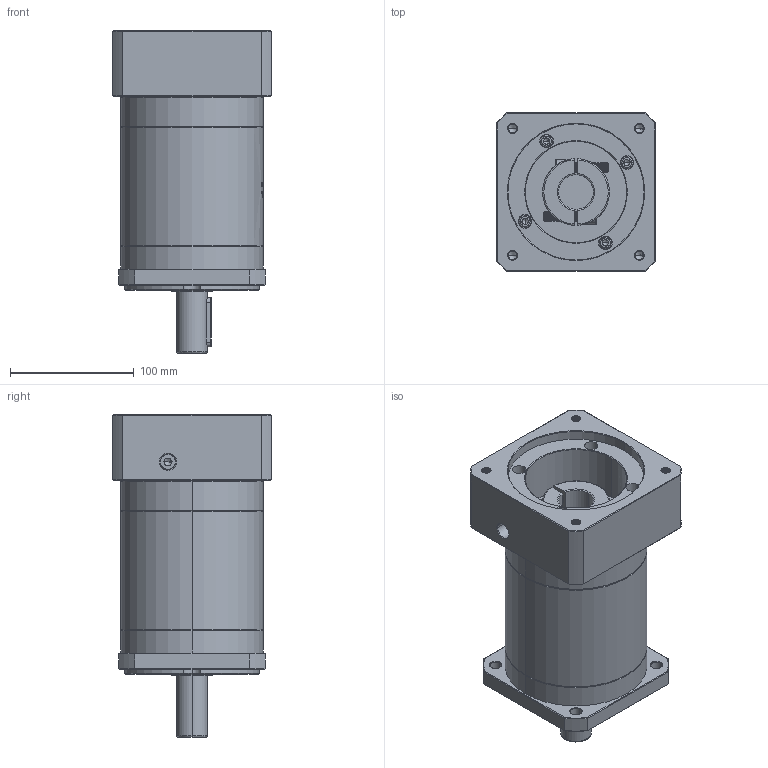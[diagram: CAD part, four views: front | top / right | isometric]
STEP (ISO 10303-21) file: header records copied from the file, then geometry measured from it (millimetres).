
FILE_DESCRIPTION (( 'STEP AP214' ), '1' );
FILE_NAME ('ZF120A-D25-L3-28-110-145-M8.step', '2023-03-07T09:31:49', ( '' ), ( '' ), 'SwSTEP 2.0', 'SolidWorks 2016', '' );
FILE_SCHEMA (( 'AUTOMOTIVE_DESIGN' ));
Length unit declared in the file: millimetre
Products named in the file (1): ZF120A-D25-L3-28-110-145-M8
Bounding box: 128 x 128 x 260.5 mm (x, y, z)
Volume: 2248558.4 mm3; surface area: 200456.7 mm2
Topology: 6 solids, 6 shells, 1939 faces, 5065 edges, 3223 vertices
Faces by surface type: plane 856, cylinder 420, cone 322, bspline 321, torus 20
Entity records: 106264 total; most frequent: CARTESIAN_POINT 41091, ORIENTED_EDGE 10070, DIRECTION 7801, EDGE_CURVE 5035, VERTEX_POINT 3223, VECTOR 2739, LINE 2739, AXIS2_PLACEMENT_3D 2531
